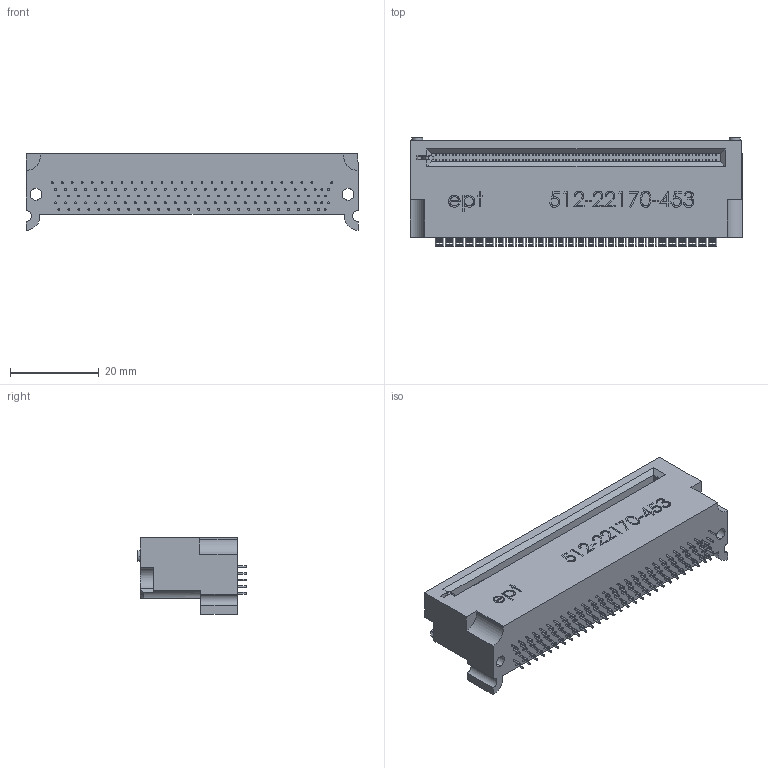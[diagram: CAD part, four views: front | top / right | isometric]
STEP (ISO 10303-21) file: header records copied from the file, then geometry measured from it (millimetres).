
FILE_DESCRIPTION (( 'STEP AP214' ), '1' );
FILE_NAME ('512-22170-453_C_3D.STEP', '2011-11-10T13:42:57', ( ' ' ), ( ' ' ), 'SwSTEP 2.0', 'SolidWorks 2010', '' );
FILE_SCHEMA (( 'AUTOMOTIVE_DESIGN' ));
Length unit declared in the file: millimetre
Products named in the file (1): 512-22170-453_C_3D
Bounding box: 74.8 x 24.45 x 17.27 mm (x, y, z)
Volume: 20920.6 mm3; surface area: 8381.8 mm2
Topology: 2 solids, 2 shells, 1394 faces, 3671 edges, 2446 vertices
Faces by surface type: plane 818, cylinder 498, bspline 76, cone 2
Entity records: 47466 total; most frequent: CARTESIAN_POINT 12384, ORIENTED_EDGE 7342, DIRECTION 7153, EDGE_CURVE 3671, LINE 2515, VECTOR 2515, VERTEX_POINT 2446, AXIS2_PLACEMENT_3D 2319
